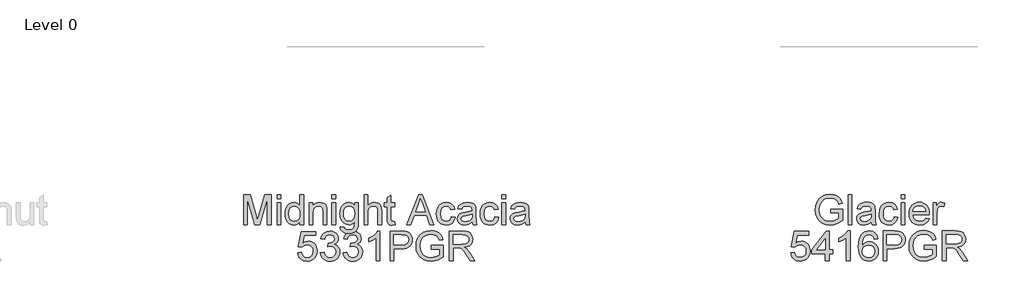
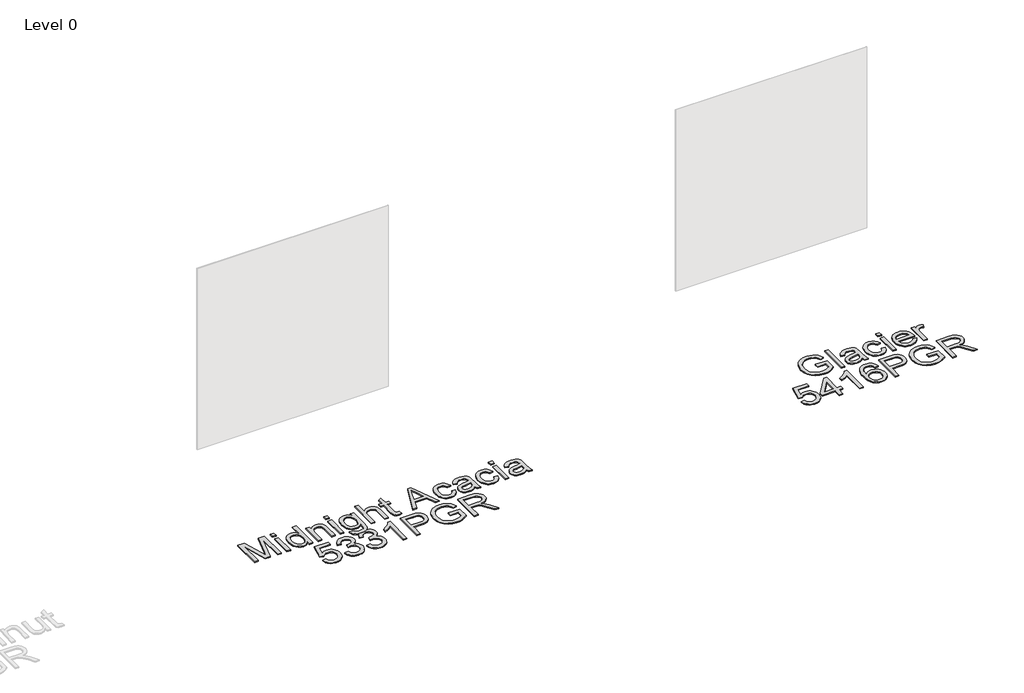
# One storey, part 20 of 43: 2 proxies.
"""IFC4 building model written with IfcOpenShell, lengths in millimetres."""

from ifc_helpers import new_model, si_unit, origin, origin_with_axes, place, context, project, spatial, polyline, outline, extrude, element, save

model = new_model("IFC4")

# Units and contexts
model_context = context("Model", 3, world=origin())
ifc_project = project(units=[si_unit("LENGTHUNIT", "METRE", prefix="MILLI")], contexts=[model_context])

# Site, building, storey
site = spatial("IfcSite", under=ifc_project)
building = spatial("IfcBuilding", under=site)
storey = spatial("IfcBuildingStorey", under=building, Name="Level 0", Elevation=0.0)

# Proxies
placement = place(None, origin())
element("IfcBuildingElementProxy", 1, Name="300mm Arial", ObjectType="300mm Arial", at=placement, inside=storey, context=model_context, shape_type="SweptSolid", body=[
    extrude(outline(polyline([(26108.421745, -37005.860494), (26108.421745, -36704.4915635), (26173.2425525, -36704.4915635), (26234.8995749, -36916.9066275), (26247.3339864, -36961.2731962), (26260.7984674, -36913.2278076), (26321.4254202, -36704.4915635), (26386.2462277, -36704.4915635), (26386.2462277, -37005.860494), (26348.5751114, -37005.860494), (26348.5751114, -36742.1626798), (26272.8649968, -37005.860494), (26221.8029759, -37005.860494), (26146.0928613, -36742.1626798), (26146.0928613, -37005.860494), (26108.421745, -37005.860494)])), origin_with_axes(), (0.0, 0.0, 1.0), 10.0),
    extrude(outline(polyline([(26447.4617917, -36742.1626798), (26447.4617917, -36704.4915635), (26485.132908, -36704.4915635), (26485.132908, -36742.1626798), (26447.4617917, -36742.1626798)])), origin_with_axes(), (0.0, 0.0, 1.0), 10.0),
    extrude(outline(polyline([(26447.4617917, -37005.860494), (26447.4617917, -36784.5426857), (26485.132908, -36784.5426857), (26485.132908, -37005.860494), (26447.4617917, -37005.860494)])), origin_with_axes(), (0.0, 0.0, 1.0), 10.0),
    extrude(outline(polyline([(26678.1973791, -37005.860494), (26678.1973791, -36970.3230932), (26666.9263945, -36987.9308452), (26653.2733739, -37000.507811), (26637.2383175, -37008.0539904), (26618.8212251, -37010.5693835), (26594.467437, -37006.9273518), (26572.1737881, -36996.0012565), (26553.3014418, -36978.5544529), (26539.2115613, -36955.350296), (26530.4375758, -36927.3268851), (26527.5129139, -36895.422319), (26530.2076495, -36863.9132261), (26538.2918563, -36835.4575538), (26551.7563374, -36811.6739828), (26570.5918955, -36794.181194), (26593.3729881, -36783.4206456), (26618.6740723, -36779.8337961), (26637.1049603, -36782.3997731), (26653.4021326, -36790.0977038), (26667.2161016, -36801.8975188), (26678.1973791, -36816.7691485), (26678.1973791, -36704.4915635), (26715.8684954, -36704.4915635), (26715.8684954, -37005.860494), (26678.1973791, -37005.860494)]), holes=[polyline([(26565.1840302, -36895.2751662), (26569.4330672, -36929.350236), (26582.1801784, -36953.5844625), (26600.7030368, -36968.069816), (26622.2793158, -36972.8982672), (26643.8463978, -36968.2905452), (26661.9002067, -36954.4673793), (26674.123086, -36931.1712519), (26678.1973791, -36898.1446458), (26674.0495096, -36862.037028), (26661.6059011, -36837.0026582), (26643.0922397, -36822.3793489), (26620.7342115, -36817.5049125), (26598.9372033, -36822.1862108), (26581.0765324, -36836.230106), (26569.1571557, -36860.3539678), (26565.1840302, -36895.2751662)])]), origin_with_axes(), (0.0, 0.0, 1.0), 10.0),
    extrude(outline(polyline([(26772.3751699, -37005.860494), (26772.3751699, -36784.5426857), (26810.0462862, -36784.5426857), (26810.0462862, -36815.4447733), (26823.1336882, -36799.8649708), (26838.8514464, -36788.7365404), (26857.1995609, -36782.0594822), (26878.1780317, -36779.8337961), (26896.7468754, -36781.6272209), (26913.7522206, -36787.0074951), (26927.9340715, -36795.303234), (26938.0324323, -36805.8430532), (26949.3264096, -36833.5445674), (26951.3129723, -36869.964885), (26951.3129723, -37005.860494), (26913.641856, -37005.860494), (26913.641856, -36875.0416565), (26909.3008485, -36841.7115477), (26903.2951749, -36831.7879309), (26893.9601693, -36824.0900002), (26881.9948074, -36819.1511844), (26868.098065, -36817.5049125), (26846.0343424, -36821.2021265), (26827.2263754, -36832.2937687), (26819.7100863, -36841.3482643), (26814.3413085, -36853.7228949), (26810.0462862, -36888.4325611), (26810.0462862, -37005.860494), (26772.3751699, -37005.860494)])), origin_with_axes(), (0.0, 0.0, 1.0), 10.0),
    extrude(outline(polyline([(27003.1107573, -36742.1626798), (27003.1107573, -36704.4915635), (27040.7818736, -36704.4915635), (27040.7818736, -36742.1626798), (27003.1107573, -36742.1626798)])), origin_with_axes(), (0.0, 0.0, 1.0), 10.0),
    extrude(outline(polyline([(27003.1107573, -37005.860494), (27003.1107573, -36784.5426857), (27040.7818736, -36784.5426857), (27040.7818736, -37005.860494), (27003.1107573, -37005.860494)])), origin_with_axes(), (0.0, 0.0, 1.0), 10.0),
    extrude(outline(polyline([(27087.8707689, -37024.6960521), (27125.5418852, -37029.4049417), (27129.6989518, -37041.1771655), (27137.7555675, -37049.2705694), (27153.5928874, -37055.5613515), (27174.3230378, -37057.6582789), (27196.4327457, -37055.28544), (27212.8770709, -37048.1669234), (27224.2814128, -37036.7625816), (27231.2711707, -37021.532267), (27233.8463446, -36977.6071568), (27221.3107656, -36989.9679918), (27207.3220528, -36998.7971597), (27191.880206, -37004.0946604), (27174.9852254, -37005.860494), (27154.3309506, -37003.8049533), (27136.1460838, -36997.6383314), (27120.4306248, -36987.3606281), (27107.1845737, -36972.9718436), (27096.6746449, -36955.708981), (27089.167553, -36936.8090435), (27084.6632978, -36916.2720311), (27083.1618794, -36894.0979438), (27085.856615, -36863.6832999), (27093.9408219, -36835.7150712), (27107.1293914, -36812.0142737), (27125.1372151, -36794.4019232), (27147.3480905, -36783.4758279), (27173.1458154, -36779.8337961), (27190.7627645, -36781.8939353), (27206.7518357, -36788.0743528), (27221.1130291, -36798.3750487), (27233.8463446, -36812.7960229), (27233.8463446, -36784.5426857), (27271.5174609, -36784.5426857), (27271.5174609, -36975.620594), (27268.942287, -37019.7388422), (27261.2167651, -37048.7923228), (27247.9086339, -37068.0601423), (27228.5856321, -37082.8214074), (27203.670824, -37092.2023982), (27173.5872738, -37095.3293952), (27138.5373167, -37090.9240083), (27110.93697, -37077.7078476), (27100.5420044, -37067.7865301), (27093.232649, -37055.644125), (27089.0089039, -37041.2806323), (27087.8707689, -37024.6960521)]), holes=[polyline([(27120.8329957, -36891.5227699), (27124.8521065, -36926.0760863), (27136.9094389, -36949.8320661), (27155.0368242, -36963.6000498), (27177.2660938, -36968.1893777), (27199.3298164, -36963.6276409), (27217.5491722, -36949.9424307), (27229.7720515, -36926.4899535), (27233.8463446, -36892.6264159), (27229.6524899, -36859.9676917), (27217.0709256, -36836.4508352), (27198.5848554, -36822.2413931), (27176.6774826, -36817.5049125), (27155.1655829, -36822.1678167), (27137.1301681, -36836.1565296), (27124.9072888, -36859.3238983), (27120.8329957, -36891.5227699)])]), origin_with_axes(), (0.0, 0.0, 1.0), 10.0),
    extrude(outline(polyline([(27328.0241354, -37005.860494), (27328.0241354, -36704.4915635), (27365.6952517, -36704.4915635), (27365.6952517, -36815.2976205), (27379.5322132, -36799.7821973), (27395.070629, -36788.6997522), (27412.310499, -36782.0502852), (27431.2518232, -36779.8337961), (27454.0053246, -36782.2526203), (27473.5582527, -36789.5090926), (27488.9541142, -36801.0329961), (27499.2364159, -36816.2541137), (27505.0305574, -36837.1682051), (27506.9619378, -36865.7710302), (27506.9619378, -37005.860494), (27469.2908215, -37005.860494), (27469.2908215, -36869.6705794), (27466.2925833, -36846.0893435), (27457.2978685, -36829.9393239), (27442.8033179, -36820.6135153), (27423.3055721, -36817.5049125), (27407.3854788, -36819.6018398), (27392.4402727, -36825.8926219), (27380.0610436, -36835.7702535), (27371.838881, -36848.6277292), (27367.231159, -36865.7158479), (27365.6952517, -36888.2854083), (27365.6952517, -37005.860494), (27328.0241354, -37005.860494)])), origin_with_axes(), (0.0, 0.0, 1.0), 10.0),
    extrude(outline(polyline([(27638.8108449, -36974.4433716), (27643.5197345, -37006.96414), (27615.3399736, -37010.5693835), (27597.2585736, -37009.005885), (27583.7756984, -37004.3153896), (27574.2475548, -36997.0865084), (27568.030349, -36987.9078526), (27564.6090465, -36972.1441091), (27563.4686123, -36945.1599648), (27563.4686123, -36822.213802), (27535.2152751, -36822.213802), (27535.2152751, -36784.5426857), (27563.4686123, -36784.5426857), (27563.4686123, -36730.758338), (27601.1397286, -36708.6118419), (27601.1397286, -36784.5426857), (27638.8108449, -36784.5426857), (27638.8108449, -36822.213802), (27601.1397286, -36822.213802), (27601.1397286, -36944.0563188), (27603.1262914, -36963.4804881), (27609.5642263, -36970.3598814), (27622.4033079, -36972.8982672), (27638.8108449, -36974.4433716)])), origin_with_axes(), (0.0, 0.0, 1.0), 10.0),
    extrude(outline(polyline([(27763.8171469, -37005.860494), (27884.1145593, -36704.4915635), (27916.1938693, -36704.4915635), (28036.4912817, -37005.860494), (27996.6864498, -37005.860494), (27962.1791187, -36911.6827032), (27838.0557335, -36911.6827032), (27803.6219788, -37005.860494), (27763.8171469, -37005.860494)]), holes=[polyline([(27851.8880965, -36874.0115869), (27948.4203321, -36874.0115869), (27921.2706408, -36799.9201531), (27900.1542143, -36742.1626798), (27881.3922325, -36793.44543), (27851.8880965, -36874.0115869)])]), origin_with_axes(), (0.0, 0.0, 1.0), 10.0),
    extrude(outline(polyline([(28213.2953686, -36925.8093718), (28250.9664849, -36930.5182614), (28240.4634539, -36964.0231141), (28220.7265849, -36989.3425924), (28193.6136818, -37005.2626857), (28160.9825489, -37010.5693835), (28139.854626, -37008.7184772), (28120.9110025, -37003.1657584), (28104.1516784, -36993.9112269), (28089.5766536, -36980.9548829), (28077.7791379, -36964.5404481), (28069.3523409, -36944.9116444), (28064.2962628, -36922.0684718), (28062.6109034, -36896.0109302), (28065.48958, -36862.4876834), (28074.1256098, -36833.4342028), (28088.6569486, -36809.9725286), (28109.2215522, -36793.2247008), (28133.8236606, -36783.1815223), (28160.4675141, -36779.8337961), (28192.2985037, -36784.4323211), (28217.7467407, -36798.2278959), (28236.0028847, -36820.4847566), (28246.2575954, -36850.4671392), (28208.586479, -36855.1760288), (28201.753071, -36838.7409006), (28191.1120843, -36826.9594797), (28177.2521301, -36819.8685543), (28160.7618197, -36817.5049125), (28136.4172286, -36822.1586197), (28117.0942268, -36836.1197414), (28104.4850715, -36860.1424357), (28100.2820197, -36894.9808606), (28104.393101, -36930.2883351), (28116.7263449, -36954.3938029), (28135.6998588, -36968.2721511), (28159.7317501, -36972.8982672), (28179.2386929, -36970.0103936), (28195.2323626, -36961.3467726), (28206.8666307, -36946.6866751), (28213.2953686, -36925.8093718)])), origin_with_axes(), (0.0, 0.0, 1.0), 10.0),
    extrude(outline(polyline([(28425.1953978, -36977.6071568), (28407.1967712, -36993.0398064), (28388.6647157, -37003.1381672), (28369.176167, -37008.7115794), (28348.3080608, -37010.5693835), (28316.8265591, -37006.0996173), (28293.6040081, -36992.6903186), (28279.2842015, -36972.3280501), (28274.5109326, -36946.9993748), (28276.3135544, -36931.3827841), (28281.7214197, -36917.2009331), (28290.0631439, -36905.0608273), (28300.6673424, -36895.5694718), (28327.0444815, -36883.2086368), (28359.6388263, -36877.5432541), (28398.1560712, -36871.5835657), (28424.9746686, -36864.5938078), (28425.1953978, -36856.2060983), (28422.6018297, -36839.3938912), (28414.8211255, -36828.3942195), (28397.4203072, -36820.2272392), (28373.1768837, -36817.5049125), (28350.736082, -36819.3167313), (28335.064309, -36824.7521878), (28324.377337, -36834.8045633), (28316.8909384, -36850.4671392), (28279.2198221, -36845.7582497), (28285.7589246, -36825.156858), (28295.5169945, -36808.9700502), (28309.4045398, -36796.590821), (28328.3320685, -36787.4121652), (28351.481043, -36781.7283884), (28378.032926, -36779.8337961), (28403.4995571, -36781.5076592), (28423.6870816, -36786.5292485), (28438.9081992, -36794.0800264), (28449.4756095, -36803.3414556), (28456.4837615, -36814.7917827), (28461.0271041, -36828.9092543), (28462.8665141, -36861.8714811), (28462.8665141, -36908.7396473), (28464.7795005, -36974.1858542), (28472.2842932, -37005.860494), (28434.6131769, -37005.860494), (28425.1953978, -36977.6071568)]), holes=[polyline([(28425.1953978, -36902.2649241), (28364.4212922, -36913.8164188), (28332.0108884, -36919.9232599), (28317.3323968, -36929.8560738), (28312.1820489, -36944.3506244), (28314.9871491, -36955.5526311), (28323.4024497, -36964.7312869), (28337.2440098, -36970.8565221), (28356.3278883, -36972.8982672), (28376.561398, -36970.64499), (28394.440463, -36963.8851583), (28408.9350136, -36953.9247533), (28419.0149803, -36942.069756), (28423.4847465, -36929.8560738), (28424.9746686, -36912.933502), (28425.1953978, -36902.2649241)])]), origin_with_axes(), (0.0, 0.0, 1.0), 10.0),
    extrude(outline(polyline([(28655.9309852, -36925.8093718), (28693.6021015, -36930.5182614), (28683.0990705, -36964.0231141), (28663.3622015, -36989.3425924), (28636.2492984, -37005.2626857), (28603.6181655, -37010.5693835), (28582.4902426, -37008.7184772), (28563.5466191, -37003.1657584), (28546.787295, -36993.9112269), (28532.2122702, -36980.9548829), (28520.4147545, -36964.5404481), (28511.9879575, -36944.9116444), (28506.9318794, -36922.0684718), (28505.24652, -36896.0109302), (28508.1251966, -36862.4876834), (28516.7612264, -36833.4342028), (28531.2925652, -36809.9725286), (28551.8571687, -36793.2247008), (28576.4592772, -36783.1815223), (28603.1031307, -36779.8337961), (28634.9341203, -36784.4323211), (28660.3823573, -36798.2278959), (28678.6385013, -36820.4847566), (28688.893212, -36850.4671392), (28651.2220956, -36855.1760288), (28644.3886876, -36838.7409006), (28633.7477009, -36826.9594797), (28619.8877467, -36819.8685543), (28603.3974363, -36817.5049125), (28579.0528452, -36822.1586197), (28559.7298434, -36836.1197414), (28547.1206881, -36860.1424357), (28542.9176363, -36894.9808606), (28547.0287176, -36930.2883351), (28559.3619615, -36954.3938029), (28578.3354754, -36968.2721511), (28602.3673667, -36972.8982672), (28621.8743095, -36970.0103936), (28637.8679792, -36961.3467726), (28649.5022473, -36946.6866751), (28655.9309852, -36925.8093718)])), origin_with_axes(), (0.0, 0.0, 1.0), 10.0),
    extrude(outline(polyline([(28726.5643283, -36742.1626798), (28726.5643283, -36704.4915635), (28764.2354446, -36704.4915635), (28764.2354446, -36742.1626798), (28726.5643283, -36742.1626798)])), origin_with_axes(), (0.0, 0.0, 1.0), 10.0),
    extrude(outline(polyline([(28726.5643283, -37005.860494), (28726.5643283, -36784.5426857), (28764.2354446, -36784.5426857), (28764.2354446, -37005.860494), (28726.5643283, -37005.860494)])), origin_with_axes(), (0.0, 0.0, 1.0), 10.0),
    extrude(outline(polyline([(28962.0088052, -36977.6071568), (28944.0101786, -36993.0398064), (28925.4781231, -37003.1381672), (28905.9895744, -37008.7115794), (28885.1214682, -37010.5693835), (28853.6399664, -37006.0996173), (28830.4174155, -36992.6903186), (28816.0976088, -36972.3280501), (28811.3243399, -36946.9993748), (28813.1269617, -36931.3827841), (28818.5348271, -36917.2009331), (28826.8765513, -36905.0608273), (28837.4807498, -36895.5694718), (28863.8578889, -36883.2086368), (28896.4522336, -36877.5432541), (28934.9694785, -36871.5835657), (28961.788076, -36864.5938078), (28962.0088052, -36856.2060983), (28959.4152371, -36839.3938912), (28951.6345329, -36828.3942195), (28934.2337145, -36820.2272392), (28909.9902911, -36817.5049125), (28887.5494893, -36819.3167313), (28871.8777164, -36824.7521878), (28861.1907444, -36834.8045633), (28853.7043458, -36850.4671392), (28816.0332295, -36845.7582497), (28822.5723319, -36825.156858), (28832.3304019, -36808.9700502), (28846.2179472, -36796.590821), (28865.1454758, -36787.4121652), (28888.2944504, -36781.7283884), (28914.8463334, -36779.8337961), (28940.3129645, -36781.5076592), (28960.500489, -36786.5292485), (28975.7216065, -36794.0800264), (28986.2890169, -36803.3414556), (28993.2971689, -36814.7917827), (28997.8405115, -36828.9092543), (28999.6799215, -36861.8714811), (28999.6799215, -36908.7396473), (29001.5929079, -36974.1858542), (29009.0977006, -37005.860494), (28971.4265842, -37005.860494), (28962.0088052, -36977.6071568)]), holes=[polyline([(28962.0088052, -36902.2649241), (28901.2346996, -36913.8164188), (28868.8242958, -36919.9232599), (28854.1458042, -36929.8560738), (28848.9954563, -36944.3506244), (28851.8005565, -36955.5526311), (28860.2158571, -36964.7312869), (28874.0574172, -36970.8565221), (28893.1412957, -36972.8982672), (28913.3748054, -36970.64499), (28931.2538704, -36963.8851583), (28945.748421, -36953.9247533), (28955.8283877, -36942.069756), (28960.2981539, -36929.8560738), (28961.788076, -36912.933502), (28962.0088052, -36902.2649241)])]), origin_with_axes(), (0.0, 0.0, 1.0), 10.0),
    extrude(outline(polyline([(26654.6529314, -37291.7338254), (26692.3240477, -37287.0249358), (26699.2402292, -37309.6404815), (26711.3067587, -37325.8364863), (26728.4684538, -37335.5761621), (26750.6701322, -37338.8227207), (26777.6726706, -37334.3069693), (26797.9061803, -37320.7597148), (26810.5429269, -37299.7444558), (26814.7551757, -37272.8246908), (26810.8096413, -37247.4776213), (26798.9730381, -37228.0902402), (26779.1533956, -37215.7845875), (26751.2587434, -37211.6827032), (26732.9842052, -37213.3197781), (26718.186152, -37218.2310027), (26697.0329373, -37235.2271509), (26659.361821, -37230.5182614), (26692.3240477, -37075.1249066), (26838.2996234, -37075.1249066), (26838.2996234, -37112.7960229), (26722.7846769, -37112.7960229), (26706.6714455, -37195.790201), (26733.5820135, -37179.4562404), (26761.7801684, -37174.0115869), (26780.1259837, -37175.6992456), (26796.9772783, -37180.7622215), (26812.3340523, -37189.2005148), (26826.1963058, -37201.0141254), (26837.6719248, -37215.4810848), (26845.8687955, -37231.8794248), (26850.7869179, -37250.2091452), (26852.426292, -37270.470246), (26846.521786, -37308.1413624), (26839.1411535, -37324.9351754), (26828.8082679, -37340.3678251), (26813.154889, -37356.1729553), (26794.889548, -37367.4623341), (26774.0122448, -37374.2359613), (26750.5229794, -37376.4938371), (26713.5232477, -37370.6904986), (26697.8445769, -37363.4363255), (26684.0467028, -37353.2804832), (26672.5664853, -37340.7288093), (26663.8407843, -37326.2871418), (26654.6529314, -37291.7338254)])), origin_with_axes(), (0.0, 0.0, 1.0), 10.0),
    extrude(outline(polyline([(26885.3885188, -37291.7338254), (26923.0596351, -37287.0249358), (26931.4933298, -37310.6981422), (26943.8449678, -37326.6826149), (26960.7215544, -37335.7876943), (26982.7300947, -37338.8227207), (27008.5554108, -37334.6472601), (27028.4946149, -37322.1208782), (27041.2417261, -37303.4324728), (27045.4907631, -37280.7709419), (27041.2785143, -37259.2590422), (27028.6417677, -37241.8122386), (27009.511904, -37230.2515469), (26985.8203035, -37226.397983), (26959.4063762, -37230.5182614), (26963.600231, -37192.8471451), (26969.6334957, -37193.2886035), (26992.2030561, -37190.5846708), (27012.3813835, -37182.4728728), (27026.6184167, -37168.7508744), (27031.3640945, -37149.2163404), (27027.9243978, -37132.9467592), (27017.6053079, -37119.7489926), (27001.8599585, -37111.0025982), (26982.1414835, -37108.0871334), (26962.3862204, -37111.0301893), (26946.2362008, -37119.8593572), (26934.4455829, -37134.574637), (26927.7685246, -37155.1760288), (26890.0974083, -37150.4671392), (26901.1890505, -37116.6403898), (26920.9259195, -37091.3852908), (26947.928458, -37075.6583355), (26980.8171083, -37070.4160171), (27004.4995118, -37073.0003881), (27026.2505348, -37080.7535011), (27044.5894522, -37092.9855775), (27058.0355391, -37109.0068384), (27066.2852929, -37127.4653175), (27069.0352108, -37147.0090485), (27066.4232486, -37165.2192072), (27058.5873621, -37181.7371088), (27045.6379159, -37195.8085951), (27027.6852745, -37206.6795081), (27051.2665104, -37216.2076518), (27068.7409052, -37232.4312477), (27079.5566359, -37254.4673793), (27083.1618794, -37281.4331295), (27081.3592576, -37300.5445992), (27075.9513923, -37318.1477526), (27066.9382834, -37334.2425899), (27054.319931, -37348.829111), (27038.9470621, -37360.9324287), (27021.6704039, -37369.5776555), (27002.4899564, -37374.7647917), (26981.4057195, -37376.4938371), (26962.3494322, -37375.0177105), (26944.985402, -37370.589331), (26929.313629, -37363.2086985), (26915.3341132, -37352.875813), (26903.6124731, -37340.1976797), (26894.7143274, -37325.781304), (26888.6396759, -37309.6266859), (26885.3885188, -37291.7338254)])), origin_with_axes(), (0.0, 0.0, 1.0), 10.0),
    extrude(outline(polyline([(27116.1241062, -37291.7338254), (27153.7952225, -37287.0249358), (27162.2289172, -37310.6981422), (27174.5805552, -37326.6826149), (27191.4571417, -37335.7876943), (27213.4656821, -37338.8227207), (27239.2909982, -37334.6472601), (27259.2302023, -37322.1208782), (27271.9773134, -37303.4324728), (27276.2263505, -37280.7709419), (27272.0141016, -37259.2590422), (27259.3773551, -37241.8122386), (27240.2474913, -37230.2515469), (27216.5558909, -37226.397983), (27190.1419636, -37230.5182614), (27194.3358183, -37192.8471451), (27200.3690831, -37193.2886035), (27222.9386435, -37190.5846708), (27243.1169709, -37182.4728728), (27257.3540041, -37168.7508744), (27262.0996819, -37149.2163404), (27258.6599852, -37132.9467592), (27248.3408952, -37119.7489926), (27232.5955458, -37111.0025982), (27212.8770709, -37108.0871334), (27193.1218078, -37111.0301893), (27176.9717882, -37119.8593572), (27165.1811702, -37134.574637), (27158.504112, -37155.1760288), (27120.8329957, -37150.4671392), (27131.9246379, -37116.6403898), (27151.6615069, -37091.3852908), (27178.6640454, -37075.6583355), (27211.5526957, -37070.4160171), (27235.2350992, -37073.0003881), (27256.9861221, -37080.7535011), (27275.3250396, -37092.9855775), (27288.7711265, -37109.0068384), (27297.0208803, -37127.4653175), (27299.7707982, -37147.0090485), (27297.158836, -37165.2192072), (27289.3229495, -37181.7371088), (27276.3735033, -37195.8085951), (27258.4208619, -37206.6795081), (27282.0020978, -37216.2076518), (27299.4764926, -37232.4312477), (27310.2922232, -37254.4673793), (27313.8974668, -37281.4331295), (27312.094845, -37300.5445992), (27306.6869797, -37318.1477526), (27297.6738708, -37334.2425899), (27285.0555184, -37348.829111), (27269.6826495, -37360.9324287), (27252.4059913, -37369.5776555), (27233.2255438, -37374.7647917), (27212.1413069, -37376.4938371), (27193.0850196, -37375.0177105), (27175.7209894, -37370.589331), (27160.0492164, -37363.2086985), (27146.0697006, -37352.875813), (27134.3480605, -37340.1976797), (27125.4499148, -37325.781304), (27119.3752633, -37309.6266859), (27116.1241062, -37291.7338254)])), origin_with_axes(), (0.0, 0.0, 1.0), 10.0),
    extrude(outline(polyline([(27488.1263797, -37371.7849475), (27450.4552634, -37371.7849475), (27450.4552634, -37136.9290818), (27414.7707099, -37162.3497277), (27375.1130308, -37181.3692268), (27375.1130308, -37145.7582497), (27404.6999402, -37129.6634124), (27430.3321183, -37110.5151545), (27450.5380368, -37090.1528861), (27463.846168, -37070.4160171), (27488.1263797, -37070.4160171), (27488.1263797, -37371.7849475)])), origin_with_axes(), (0.0, 0.0, 1.0), 10.0),
    extrude(outline(polyline([(27591.7219495, -37371.7849475), (27591.7219495, -37070.4160171), (27703.4109233, -37070.4160171), (27748.4396795, -37073.2854966), (27768.5168394, -37078.6473767), (27785.043938, -37087.375377), (27798.3520692, -37099.8649708), (27808.7723267, -37116.5116311), (27815.5045672, -37136.1473326), (27817.7486474, -37157.6040499), (27816.2334334, -37176.1039158), (27811.6877915, -37193.1230566), (27804.1117217, -37208.6614723), (27793.5052239, -37222.7191631), (27778.9439947, -37234.3718253), (27759.5037305, -37242.6951554), (27735.1844313, -37247.6891535), (27705.9860972, -37249.3538195), (27629.3930658, -37249.3538195), (27629.3930658, -37371.7849475), (27591.7219495, -37371.7849475)]), holes=[polyline([(27629.3930658, -37211.6827032), (27708.1933892, -37211.6827032), (27741.5970744, -37208.2246125), (27763.6699941, -37197.8503402), (27775.9756468, -37181.2036799), (27780.0775311, -37158.9284251), (27777.6587069, -37142.0058533), (27770.4022346, -37127.7320319), (27759.2094249, -37116.9898777), (27744.9815887, -37110.6623073), (27707.3104724, -37108.0871334), (27629.3930658, -37108.0871334), (27629.3930658, -37211.6827032)])]), origin_with_axes(), (0.0, 0.0, 1.0), 10.0),
    extrude(outline(polyline([(28010.8131184, -37254.0627091), (28010.8131184, -37216.3915928), (28133.2442464, -37216.3915928), (28133.2442464, -37329.0370597), (28103.4917901, -37349.7304219), (28072.8012346, -37364.5744604), (28041.2461565, -37373.5139929), (28008.9001321, -37376.4938371), (27966.6396879, -37371.7573564), (27928.4443397, -37357.5479143), (27896.7145176, -37334.3621516), (27873.8506516, -37302.6967088), (27860.0274857, -37264.7128928), (27855.4197637, -37222.5720103), (27860.0090916, -37180.1276251), (27873.7770752, -37140.6446899), (27896.1534976, -37107.5261133), (27926.5681415, -37084.1748037), (27963.6138585, -37070.3240466), (28005.8834997, -37065.7071275), (28036.914346, -37068.383469), (28064.8181953, -37076.4124936), (28088.3166578, -37089.214787), (28106.1313434, -37106.2109352), (28119.3107159, -37128.2194756), (28128.9032389, -37156.0589455), (28094.1751785, -37165.8446066), (28086.4220655, -37145.9881759), (28076.9950894, -37131.0061817), (28064.5238897, -37119.7122044), (28047.6381062, -37110.9198247), (28027.505764, -37105.2636391), (28005.2948885, -37103.3782438), (27979.2948285, -37105.4107919), (27957.0655589, -37111.5084359), (27938.6898533, -37120.9078209), (27924.250485, -37132.8455916), (27904.8631038, -37161.8714811), (27896.0339359, -37190.3087593), (27893.09088, -37221.0269059), (27896.6317442, -37257.0517503), (27907.2543368, -37286.693842), (27924.6367611, -37309.741649), (27948.4571203, -37325.9836391), (27976.3333784, -37335.6129503), (28005.8834997, -37338.8227207), (28031.9755302, -37336.4038966), (28057.4237672, -37329.1474243), (28079.5242781, -37319.1502311), (28095.5731301, -37308.5092443), (28095.5731301, -37254.0627091), (28010.8131184, -37254.0627091)])), origin_with_axes(), (0.0, 0.0, 1.0), 10.0),
    extrude(outline(polyline([(28194.4598104, -37371.7849475), (28194.4598104, -37070.4160171), (28324.3221547, -37070.4160171), (28359.224959, -37072.4485651), (28384.6180137, -37078.5462092), (28403.1776604, -37089.8033982), (28417.5802405, -37107.3145812), (28426.8232756, -37129.0288159), (28429.9042873, -37152.8951604), (28424.7999247, -37182.5832374), (28409.4868366, -37207.1945429), (28397.8870575, -37217.2239258), (28383.5051707, -37225.2391547), (28346.3950744, -37235.2271509), (28367.8058066, -37251.3403823), (28398.3400122, -37290.1151446), (28448.5926927, -37371.7849475), (28404.8147353, -37371.7849475), (28365.5985146, -37309.3185847), (28337.271601, -37267.9686485), (28317.369185, -37248.4341145), (28299.4533319, -37241.2604156), (28277.6011413, -37239.9360404), (28232.1309267, -37239.9360404), (28232.1309267, -37371.7849475), (28194.4598104, -37371.7849475)]), holes=[polyline([(28232.1309267, -37202.2649241), (28316.44948, -37202.2649241), (28340.6653124, -37200.9313519), (28359.4548853, -37196.9306352), (28373.599948, -37189.9960596), (28383.8822498, -37179.8609106), (28390.1454407, -37167.6012431), (28392.233171, -37154.293112), (28388.2508484, -37135.9174063), (28376.3038807, -37121.110156), (28355.7484742, -37111.342889), (28325.9408355, -37108.0871334), (28232.1309267, -37108.0871334), (28232.1309267, -37202.2649241)])]), origin_with_axes(), (0.0, 0.0, 1.0), 10.0),
])
element("IfcBuildingElementProxy", 2, Name="300mm Arial", ObjectType="300mm Arial", at=placement, inside=storey, context=model_context, shape_type="SweptSolid", body=[
    extrude(outline(polyline([(32059.6174317, -36887.1382555), (32059.6174317, -36849.4671392), (32182.0485597, -36849.4671392), (32182.0485597, -36962.1126061), (32152.2961033, -36982.8059684), (32121.6055479, -36997.6500069), (32090.0504698, -37006.5895394), (32057.7044453, -37009.5693835), (32015.4440011, -37004.8329028), (31977.248653, -36990.6234608), (31945.5188309, -36967.437698), (31922.6549649, -36935.7722553), (31908.8317989, -36897.7884393), (31904.224077, -36855.6475567), (31908.8134048, -36813.2031715), (31922.5813885, -36773.7202364), (31944.9578109, -36740.6016598), (31975.3724548, -36717.2503502), (32012.4181717, -36703.399593), (32054.687813, -36698.782674), (32085.7186593, -36701.4590155), (32113.6225086, -36709.4880401), (32137.120971, -36722.2903335), (32154.9356567, -36739.2864817), (32168.1150291, -36761.295022), (32177.7075522, -36789.134492), (32142.9794918, -36798.9201531), (32135.2263788, -36779.0637224), (32125.7994026, -36764.0817281), (32113.328203, -36752.7877509), (32096.4424194, -36743.9953712), (32076.3100772, -36738.3391855), (32054.0992018, -36736.4537903), (32028.0991418, -36738.4863383), (32005.8698722, -36744.5839824), (31987.4941666, -36753.9833674), (31973.0547982, -36765.9211381), (31953.6674171, -36794.9470275), (31944.8382492, -36823.3843058), (31941.8951933, -36854.1024524), (31945.4360575, -36890.1272967), (31956.0586501, -36919.7693885), (31973.4410743, -36942.8171955), (31997.2614335, -36959.0591856), (32025.1376917, -36968.6884968), (32054.687813, -36971.8982672), (32080.7798435, -36969.4794431), (32106.2280805, -36962.2229707), (32128.3285914, -36952.2257775), (32144.3774434, -36941.5847908), (32144.3774434, -36887.1382555), (32059.6174317, -36887.1382555)])), origin_with_axes(), (0.0, 0.0, 1.0), 10.0),
    extrude(outline(polyline([(32238.5552342, -37004.860494), (32238.5552342, -36703.4915635), (32276.2263505, -36703.4915635), (32276.2263505, -37004.860494), (32238.5552342, -37004.860494)])), origin_with_axes(), (0.0, 0.0, 1.0), 10.0),
    extrude(outline(polyline([(32473.9997111, -36976.6071568), (32456.0010845, -36992.0398064), (32437.469029, -37002.1381672), (32417.9804803, -37007.7115794), (32397.1123741, -37009.5693835), (32365.6308724, -37005.0996173), (32342.4083214, -36991.6903186), (32328.0885147, -36971.3280501), (32323.3152459, -36945.9993748), (32325.1178676, -36930.3827841), (32330.525733, -36916.2009331), (32338.8674572, -36904.0608273), (32349.4716557, -36894.5694718), (32375.8487948, -36882.2086368), (32408.4431395, -36876.5432541), (32446.9603844, -36870.5835657), (32473.7789819, -36863.5938078), (32473.9997111, -36855.2060983), (32471.406143, -36838.3938912), (32463.6254388, -36827.3942195), (32446.2246204, -36819.2272392), (32421.981197, -36816.5049125), (32399.5403953, -36818.3167313), (32383.8686223, -36823.7521878), (32373.1816503, -36833.8045633), (32365.6952517, -36849.4671392), (32328.0241354, -36844.7582497), (32334.5632379, -36824.156858), (32344.3213078, -36807.9700502), (32358.2088531, -36795.590821), (32377.1363818, -36786.4121652), (32400.2853563, -36780.7283884), (32426.8372393, -36778.8337961), (32452.3038704, -36780.5076592), (32472.4913949, -36785.5292485), (32487.7125125, -36793.0800264), (32498.2799228, -36802.3414556), (32505.2880748, -36813.7917827), (32509.8314174, -36827.9092543), (32511.6708274, -36860.8714811), (32511.6708274, -36907.7396473), (32513.5838138, -36973.1858542), (32521.0886065, -37004.860494), (32483.4174902, -37004.860494), (32473.9997111, -36976.6071568)]), holes=[polyline([(32473.9997111, -36901.2649241), (32413.2256055, -36912.8164188), (32380.8152017, -36918.9232599), (32366.1367101, -36928.8560738), (32360.9863622, -36943.3506244), (32363.7914624, -36954.5526311), (32372.206763, -36963.7312869), (32386.0483231, -36969.8565221), (32405.1322016, -36971.8982672), (32425.3657113, -36969.64499), (32443.2447763, -36962.8851583), (32457.7393269, -36952.9247533), (32467.8192936, -36941.069756), (32472.2890598, -36928.8560738), (32473.7789819, -36911.933502), (32473.9997111, -36901.2649241)])]), origin_with_axes(), (0.0, 0.0, 1.0), 10.0),
    extrude(outline(polyline([(32704.7352985, -36924.8093718), (32742.4064148, -36929.5182614), (32731.9033838, -36963.0231141), (32712.1665148, -36988.3425924), (32685.0536117, -37004.2626857), (32652.4224787, -37009.5693835), (32631.2945559, -37007.7184772), (32612.3509324, -37002.1657584), (32595.5916083, -36992.9112269), (32581.0165835, -36979.9548829), (32569.2190677, -36963.5404481), (32560.7922708, -36943.9116444), (32555.7361926, -36921.0684718), (32554.0508332, -36895.0109302), (32556.9295098, -36861.4876834), (32565.5655397, -36832.4342028), (32580.0968785, -36808.9725286), (32600.661482, -36792.2247008), (32625.2635904, -36782.1815223), (32651.9074439, -36778.8337961), (32683.7384336, -36783.4323211), (32709.1866706, -36797.2278959), (32727.4428146, -36819.4847566), (32737.6975252, -36849.4671392), (32700.0264089, -36854.1760288), (32693.1930009, -36837.7409006), (32682.5520141, -36825.9594797), (32668.69206, -36818.8685543), (32652.2017495, -36816.5049125), (32627.8571585, -36821.1586197), (32608.5341567, -36835.1197414), (32595.9250013, -36859.1424357), (32591.7219495, -36893.9808606), (32595.8330308, -36929.2883351), (32608.1662747, -36953.3938029), (32627.1397886, -36967.2721511), (32651.17168, -36971.8982672), (32670.6786228, -36969.0103936), (32686.6722925, -36960.3467726), (32698.3065606, -36945.6866751), (32704.7352985, -36924.8093718)])), origin_with_axes(), (0.0, 0.0, 1.0), 10.0),
    extrude(outline(polyline([(32775.3686415, -36741.1626798), (32775.3686415, -36703.4915635), (32813.0397578, -36703.4915635), (32813.0397578, -36741.1626798), (32775.3686415, -36741.1626798)])), origin_with_axes(), (0.0, 0.0, 1.0), 10.0),
    extrude(outline(polyline([(32775.3686415, -37004.860494), (32775.3686415, -36783.5426857), (32813.0397578, -36783.5426857), (32813.0397578, -37004.860494), (32775.3686415, -37004.860494)])), origin_with_axes(), (0.0, 0.0, 1.0), 10.0),
    extrude(outline(polyline([(33024.4983287, -36938.9360404), (33061.433681, -36943.64493), (33048.1255498, -36971.4752029), (33026.8895616, -36992.2789297), (32998.2039631, -37005.2467701), (32962.5470007, -37009.5693835), (32939.1726984, -37007.7046817), (32918.345979, -37002.1105761), (32900.0668423, -36992.7870668), (32884.3352885, -36979.7341537), (32871.6847464, -36963.3151204), (32862.6486449, -36943.8932503), (32857.226984, -36921.4685435), (32855.4197637, -36896.0409998), (32857.2453781, -36869.7512327), (32862.7222213, -36846.5792656), (32871.8502933, -36826.5250983), (32884.6295941, -36809.5887309), (32900.3197612, -36796.133447), (32918.1804321, -36786.5225298), (32938.2116067, -36780.7559796), (32960.4132851, -36778.8337961), (32981.8998929, -36780.751381), (33001.33096, -36786.5041357), (33018.7064865, -36796.0920602), (33034.0264723, -36809.5151545), (33046.5321609, -36826.4147337), (33055.4647956, -36846.4321128), (33060.8243764, -36869.5672917), (33062.6109034, -36895.8202706), (33062.3901742, -36905.9738137), (32893.09088, -36905.9738137), (32899.6115884, -36934.1719686), (32914.7591295, -36954.902119), (32936.6205171, -36967.6492302), (32963.2827647, -36971.8982672), (32983.3323334, -36969.9300985), (33000.218117, -36964.0255925), (33013.9401154, -36953.8168672), (33024.4983287, -36938.9360404)]), holes=[polyline([(32893.09088, -36868.3026974), (33024.9397871, -36868.3026974), (33019.8446214, -36848.4002814), (33009.8566253, -36834.1632482), (32987.8940701, -36820.9194964), (32960.2661323, -36816.5049125), (32934.8730776, -36820.0273826), (32913.8762127, -36830.5947929), (32899.2804946, -36847.0667092), (32893.09088, -36868.3026974)])]), origin_with_axes(), (0.0, 0.0, 1.0), 10.0),
    extrude(outline(polyline([(33100.2820197, -37004.860494), (33100.2820197, -36783.5426857), (33133.2442464, -36783.5426857), (33133.2442464, -36816.2841833), (33145.4211405, -36797.3014723), (33156.6415413, -36786.1178596), (33167.8987304, -36780.654812), (33180.185989, -36778.8337961), (33198.9479708, -36781.7400639), (33218.0042581, -36790.4588672), (33205.4226939, -36824.2304343), (33192.1789421, -36818.4362929), (33178.9351902, -36816.5049125), (33167.6871982, -36818.3627165), (33157.6348227, -36823.9361288), (33149.5138277, -36832.8020848), (33144.0599771, -36844.5375205), (33139.4798463, -36865.5803706), (33137.953136, -36888.5362071), (33137.953136, -37004.860494), (33100.2820197, -37004.860494)])), origin_with_axes(), (0.0, 0.0, 1.0), 10.0),
    extrude(outline(polyline([(31654.6529314, -37290.7338254), (31692.3240477, -37286.0249358), (31699.2402292, -37308.6404815), (31711.3067587, -37324.8364863), (31728.4684538, -37334.5761621), (31750.6701322, -37337.8227207), (31777.6726706, -37333.3069693), (31797.9061803, -37319.7597148), (31810.5429269, -37298.7444558), (31814.7551757, -37271.8246908), (31810.8096413, -37246.4776213), (31798.9730381, -37227.0902402), (31779.1533956, -37214.7845875), (31751.2587434, -37210.6827032), (31732.9842052, -37212.3197781), (31718.186152, -37217.2310027), (31697.0329373, -37234.2271509), (31659.361821, -37229.5182614), (31692.3240477, -37074.1249066), (31838.2996234, -37074.1249066), (31838.2996234, -37111.7960229), (31722.7846769, -37111.7960229), (31706.6714455, -37194.790201), (31733.5820135, -37178.4562404), (31761.7801684, -37173.0115869), (31780.1259837, -37174.6992456), (31796.9772783, -37179.7622215), (31812.3340523, -37188.2005148), (31826.1963058, -37200.0141254), (31837.6719248, -37214.4810848), (31845.8687955, -37230.8794248), (31850.7869179, -37249.2091452), (31852.426292, -37269.470246), (31846.521786, -37307.1413624), (31839.1411535, -37323.9351754), (31828.8082679, -37339.3678251), (31813.154889, -37355.1729553), (31794.889548, -37366.4623341), (31774.0122448, -37373.2359613), (31750.5229794, -37375.4938371), (31713.5232477, -37369.6904986), (31697.8445769, -37362.4363255), (31684.0467028, -37352.2804832), (31672.5664853, -37339.7288093), (31663.8407843, -37325.2871418), (31654.6529314, -37290.7338254)])), origin_with_axes(), (0.0, 0.0, 1.0), 10.0),
    extrude(outline(polyline([(32007.8196468, -37370.7849475), (32007.8196468, -37300.1516044), (31871.2618502, -37300.1516044), (31871.2618502, -37262.4804881), (32017.2374259, -37074.1249066), (32045.4907631, -37074.1249066), (32045.4907631, -37262.4804881), (32083.1618794, -37262.4804881), (32083.1618794, -37300.1516044), (32045.4907631, -37300.1516044), (32045.4907631, -37370.7849475), (32007.8196468, -37370.7849475)]), holes=[polyline([(32007.8196468, -37262.4804881), (32007.8196468, -37146.0826249), (31917.6149816, -37262.4804881), (32007.8196468, -37262.4804881)])]), origin_with_axes(), (0.0, 0.0, 1.0), 10.0),
    extrude(outline(polyline([(32257.3907923, -37370.7849475), (32219.719676, -37370.7849475), (32219.719676, -37135.9290818), (32184.0351225, -37161.3497277), (32144.3774434, -37180.3692268), (32144.3774434, -37144.7582497), (32173.9643529, -37128.6634124), (32199.5965309, -37109.5151545), (32219.8024495, -37089.1528861), (32233.1105806, -37069.4160171), (32257.3907923, -37069.4160171), (32257.3907923, -37370.7849475)])), origin_with_axes(), (0.0, 0.0, 1.0), 10.0),
    extrude(outline(polyline([(32539.9241646, -37149.4671392), (32502.2530483, -37154.1760288), (32496.1829954, -37135.5060175), (32487.9792269, -37122.7589064), (32470.8911082, -37111.0050766), (32450.2345342, -37107.0871334), (32432.7233512, -37109.3680017), (32416.2422378, -37116.2106069), (32402.0879781, -37130.622384), (32390.5272864, -37150.4604206), (32382.718991, -37178.5206198), (32379.8219203, -37217.5988847), (32394.9326733, -37199.9681401), (32413.0416645, -37187.5429257), (32433.1372185, -37180.1760888), (32454.2076597, -37177.7204764), (32472.3074539, -37179.3989381), (32489.0092965, -37184.4343229), (32504.3131875, -37192.8266309), (32518.2191269, -37204.5758621), (32529.7752201, -37218.9830407), (32538.0295723, -37235.349191), (32542.9821837, -37253.6743129), (32544.6330542, -37273.9584064), (32541.5244513, -37300.9333537), (32532.1986427, -37325.9401323), (32517.4281806, -37347.1485293), (32497.9856172, -37362.7283318), (32474.7538692, -37372.3024607), (32448.6158534, -37375.4938371), (32426.1589569, -37373.3785156), (32405.8771626, -37367.0325512), (32387.7704707, -37356.4559438), (32371.838881, -37341.6486935), (32358.8503473, -37321.9854009), (32349.5728233, -37296.8406665), (32344.0063088, -37266.2144904), (32342.150804, -37230.1068726), (32344.2109432, -37189.6260575), (32350.3913607, -37155.0773396), (32360.6920566, -37126.4607189), (32375.1130308, -37103.7761954), (32390.743417, -37088.7436174), (32408.8662038, -37078.0060617), (32429.4813911, -37071.5635282), (32452.588979, -37069.4160171), (32485.6431762, -37074.7319119), (32512.1122858, -37090.6795964), (32530.6535383, -37116.0082718), (32539.9241646, -37149.4671392)]), holes=[polyline([(32379.8219203, -37273.3697952), (32382.0016211, -37290.0624407), (32388.5407236, -37306.0009282), (32398.6942667, -37319.7045325), (32411.7172893, -37329.6925287), (32427.4350475, -37335.7901727), (32445.6727975, -37337.8227207), (32470.5324233, -37333.6104719), (32490.0761543, -37320.9737254), (32502.740492, -37301.1080976), (32506.9619378, -37275.2092052), (32502.7956743, -37250.3495793), (32490.2968835, -37231.3944595), (32470.4220587, -37219.3923095), (32444.1276931, -37215.3915928), (32419.3048554, -37219.3923095), (32398.5471139, -37231.3944595), (32384.5032187, -37249.8897269), (32379.8219203, -37273.3697952)])]), origin_with_axes(), (0.0, 0.0, 1.0), 10.0),
    extrude(outline(polyline([(32591.7219495, -37370.7849475), (32591.7219495, -37069.4160171), (32703.4109233, -37069.4160171), (32748.4396795, -37072.2854966), (32768.5168394, -37077.6473767), (32785.043938, -37086.375377), (32798.3520692, -37098.8649708), (32808.7723267, -37115.5116311), (32815.5045672, -37135.1473326), (32817.7486474, -37156.6040499), (32816.2334334, -37175.1039158), (32811.6877915, -37192.1230566), (32804.1117217, -37207.6614723), (32793.5052239, -37221.7191631), (32778.9439947, -37233.3718253), (32759.5037305, -37241.6951554), (32735.1844313, -37246.6891535), (32705.9860972, -37248.3538195), (32629.3930658, -37248.3538195), (32629.3930658, -37370.7849475), (32591.7219495, -37370.7849475)]), holes=[polyline([(32629.3930658, -37210.6827032), (32708.1933892, -37210.6827032), (32741.5970744, -37207.2246125), (32763.6699941, -37196.8503402), (32775.9756468, -37180.2036799), (32780.0775311, -37157.9284251), (32777.6587069, -37141.0058533), (32770.4022346, -37126.7320319), (32759.2094249, -37115.9898777), (32744.9815887, -37109.6623073), (32707.3104724, -37107.0871334), (32629.3930658, -37107.0871334), (32629.3930658, -37210.6827032)])]), origin_with_axes(), (0.0, 0.0, 1.0), 10.0),
    extrude(outline(polyline([(33010.8131184, -37253.0627091), (33010.8131184, -37215.3915928), (33133.2442464, -37215.3915928), (33133.2442464, -37328.0370597), (33103.4917901, -37348.7304219), (33072.8012346, -37363.5744604), (33041.2461565, -37372.5139929), (33008.9001321, -37375.4938371), (32966.6396879, -37370.7573564), (32928.4443397, -37356.5479143), (32896.7145176, -37333.3621516), (32873.8506516, -37301.6967088), (32860.0274857, -37263.7128928), (32855.4197637, -37221.5720103), (32860.0090916, -37179.1276251), (32873.7770752, -37139.6446899), (32896.1534976, -37106.5261133), (32926.5681415, -37083.1748037), (32963.6138585, -37069.3240466), (33005.8834997, -37064.7071275), (33036.914346, -37067.383469), (33064.8181953, -37075.4124936), (33088.3166578, -37088.214787), (33106.1313434, -37105.2109352), (33119.3107159, -37127.2194756), (33128.9032389, -37155.0589455), (33094.1751785, -37164.8446066), (33086.4220655, -37144.9881759), (33076.9950894, -37130.0061817), (33064.5238897, -37118.7122044), (33047.6381062, -37109.9198247), (33027.505764, -37104.2636391), (33005.2948885, -37102.3782438), (32979.2948285, -37104.4107919), (32957.0655589, -37110.5084359), (32938.6898533, -37119.9078209), (32924.250485, -37131.8455916), (32904.8631038, -37160.8714811), (32896.0339359, -37189.3087593), (32893.09088, -37220.0269059), (32896.6317442, -37256.0517503), (32907.2543368, -37285.693842), (32924.6367611, -37308.741649), (32948.4571203, -37324.9836391), (32976.3333784, -37334.6129503), (33005.8834997, -37337.8227207), (33031.9755302, -37335.4038966), (33057.4237672, -37328.1474243), (33079.5242781, -37318.1502311), (33095.5731301, -37307.5092443), (33095.5731301, -37253.0627091), (33010.8131184, -37253.0627091)])), origin_with_axes(), (0.0, 0.0, 1.0), 10.0),
    extrude(outline(polyline([(33194.4598104, -37370.7849475), (33194.4598104, -37069.4160171), (33324.3221547, -37069.4160171), (33359.224959, -37071.4485651), (33384.6180137, -37077.5462092), (33403.1776604, -37088.8033982), (33417.5802405, -37106.3145812), (33426.8232756, -37128.0288159), (33429.9042873, -37151.8951604), (33424.7999247, -37181.5832374), (33409.4868366, -37206.1945429), (33397.8870575, -37216.2239258), (33383.5051707, -37224.2391547), (33346.3950744, -37234.2271509), (33367.8058066, -37250.3403823), (33398.3400122, -37289.1151446), (33448.5926927, -37370.7849475), (33404.8147353, -37370.7849475), (33365.5985146, -37308.3185847), (33337.271601, -37266.9686485), (33317.369185, -37247.4341145), (33299.4533319, -37240.2604156), (33277.6011413, -37238.9360404), (33232.1309267, -37238.9360404), (33232.1309267, -37370.7849475), (33194.4598104, -37370.7849475)]), holes=[polyline([(33232.1309267, -37201.2649241), (33316.44948, -37201.2649241), (33340.6653124, -37199.9313519), (33359.4548853, -37195.9306352), (33373.599948, -37188.9960596), (33383.8822498, -37178.8609106), (33390.1454407, -37166.6012431), (33392.233171, -37153.293112), (33388.2508484, -37134.9174063), (33376.3038807, -37120.110156), (33355.7484742, -37110.342889), (33325.9408355, -37107.0871334), (33232.1309267, -37107.0871334), (33232.1309267, -37201.2649241)])]), origin_with_axes(), (0.0, 0.0, 1.0), 10.0),
])

save(model, "model.ifc")
